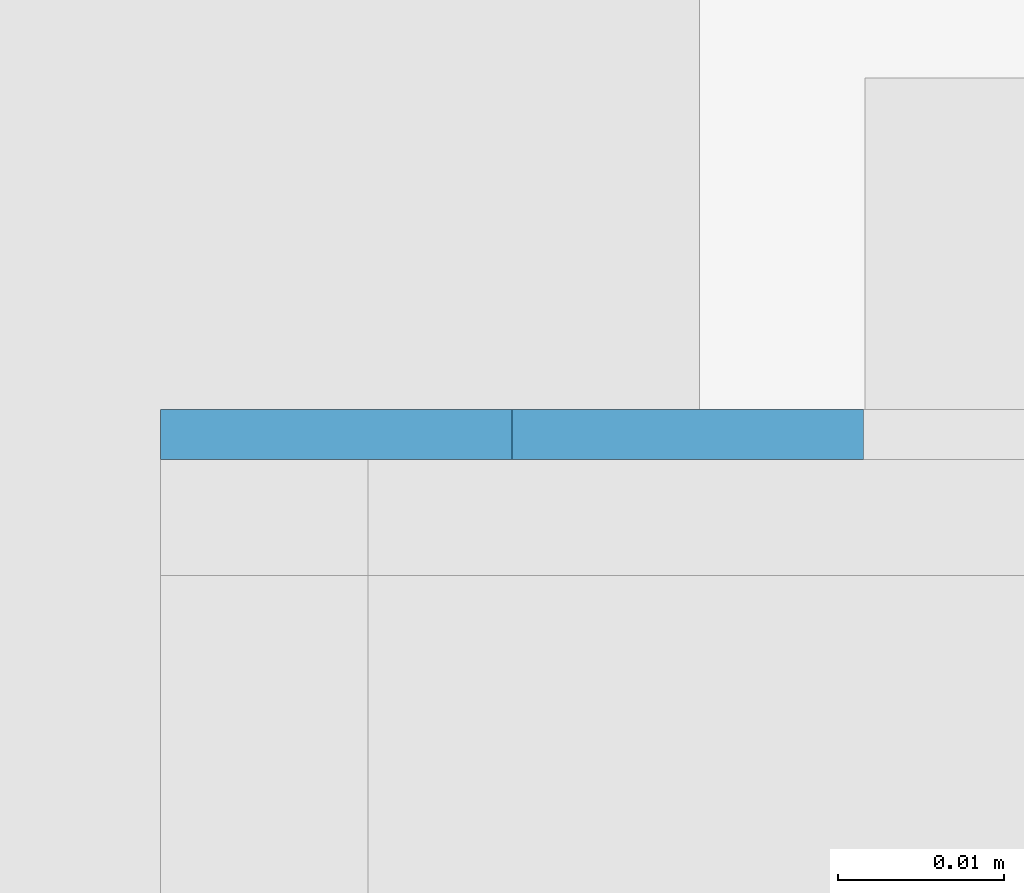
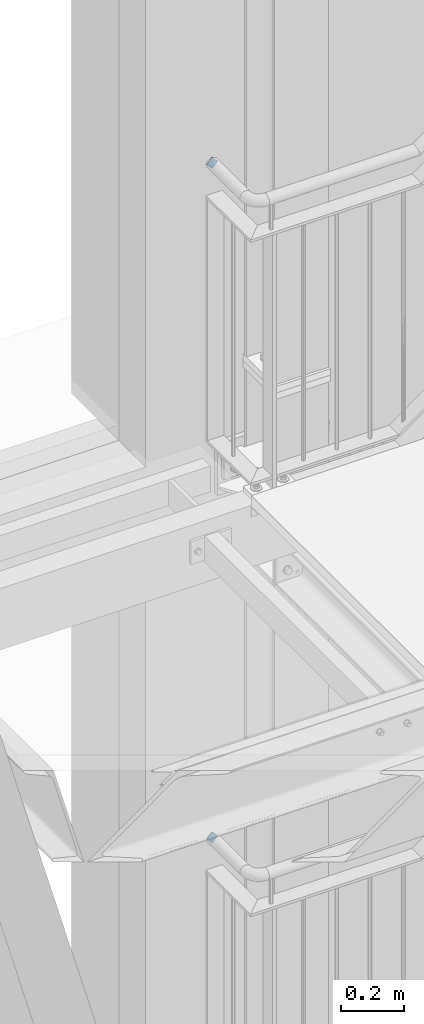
# One storey, part 224 of 821: 2 plates, 8 openings.
"""IFC2X3 building model written with IfcOpenShell, lengths in millimetres."""

from ifc_helpers import new_model, entity, si_unit, converted_unit, point, frame, frame_2d, origin, origin_with_axes, place, context, project, spatial, polyline, circle_curve, line_curve, trimmed, segment, composite_curve, outline, extrude, material, layer, layer_set, element, save


model = new_model("IFC2X3")

# Units and contexts
model_context = context("Model", 3, precision=1e-09, world=origin_with_axes())
ifc_project = project(units=[si_unit("LENGTHUNIT", "METRE", prefix="MILLI"), si_unit("AREAUNIT", "SQUARE_METRE"), si_unit("VOLUMEUNIT", "CUBIC_METRE"), converted_unit("PLANEANGLEUNIT", "DEGREE", entity("IfcPlaneAngleMeasure", 0.01745329), si_unit("PLANEANGLEUNIT", "RADIAN"), dimensions=[0, 0, 0, 0, 0, 0, 0])], contexts=[model_context])

# Site, building, storey
site_placement = place(None, origin_with_axes())
site = spatial("IfcSite", under=ifc_project, at=site_placement, Name="Cnopf'sche Kinderklinik", CompositionType="ELEMENT")
building_placement = place(site_placement, origin_with_axes())
building = spatial("IfcBuilding", under=site, at=building_placement, Name="Struktur 1", CompositionType="ELEMENT")
storey_placement = place(building_placement, origin_with_axes())
storey = spatial("IfcBuildingStorey", under=building, at=storey_placement, Name="Default Storey", CompositionType="ELEMENT", Elevation=0.0)

# Plate, openings
ifc_material = material(Name="S235JR")
ifc_layer = layer(ifc_material, 3.0)
ifc_layer_set = layer_set([ifc_layer], Name="S235JR")
plate_1_placement = place(None, frame((4614.213403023, 7608.736971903, 13719.000000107), z_axis=(0.0, 1.0, 0.0), x_axis=(0.0, 0.0, 1.0)))
plate_1 = element("IfcPlate", 1, at=plate_1_placement, inside=storey, material=ifc_layer_set, Name="-", ObjectType="-", context=model_context, shape_type="SweptSolid", body=[
    extrude(outline(polyline([(21.2, 0.0), (21.2, 42.4), (-21.2, 42.4), (-21.2, 0.0), (21.2, 0.0)])), origin_with_axes(), (0.0, 0.0, 1.0), 3.0),
])
opening_1_placement = place(plate_1_placement, frame((0.0, 0.0, -0.01), z_axis=(0.0, 0.0, 1.0), x_axis=(1.0, 0.0, 0.0)))
element("IfcOpeningElement", 2, at=opening_1_placement, cuts=plate_1, ObjectType="Opening", context=model_context, shape_type="SweptSolid", body=[
    extrude(outline(composite_curve([segment(trimmed(line_curve((21.2, 0.0), (0.0, 1.0), 21.2), [point((21.2, 0.0))], [point((21.2, 21.2))], True, "CARTESIAN"), True, "CONTINUOUS"), segment(trimmed(circle_curve(frame_2d((0.0, 21.2), x_axis=(-1.0, 0.0)), 21.2), [point((21.2, 21.2))], [point((0.0, 0.0))], False, "CARTESIAN"), True, "CONTINUOUS"), segment(trimmed(line_curve((0.0, 0.0), (1.0, 0.0), 21.2), [point((0.0, 0.0))], [point((21.2, 0.0))], True, "CARTESIAN"), True, "CONTINUOUS")], self_intersect=False)), origin(), (0.0, 0.0, 1.0), 3.02),
])
opening_2_placement = place(plate_1_placement, frame((0.0, 0.0, -0.01), z_axis=(0.0, 0.0, 1.0), x_axis=(1.0, 0.0, 0.0)))
element("IfcOpeningElement", 3, at=opening_2_placement, cuts=plate_1, ObjectType="Opening", context=model_context, shape_type="SweptSolid", body=[
    extrude(outline(composite_curve([segment(trimmed(line_curve((21.2, 42.4), (-1.0, 0.0), 21.2), [point((21.2, 42.4))], [point((0.0, 42.4))], True, "CARTESIAN"), True, "CONTINUOUS"), segment(trimmed(circle_curve(frame_2d((0.0, 21.2), x_axis=(-1.0, 0.0)), 21.2), [point((0.0, 42.4))], [point((21.2, 21.2))], False, "CARTESIAN"), True, "CONTINUOUS"), segment(trimmed(line_curve((21.2, 21.2), (0.0, 1.0), 21.2), [point((21.2, 21.2))], [point((21.2, 42.4))], True, "CARTESIAN"), True, "CONTINUOUS")], self_intersect=False)), origin(), (0.0, 0.0, 1.0), 3.02),
])
opening_3_placement = place(plate_1_placement, frame((0.0, 0.0, -0.01), z_axis=(0.0, 0.0, 1.0), x_axis=(1.0, 0.0, 0.0)))
element("IfcOpeningElement", 4, at=opening_3_placement, cuts=plate_1, ObjectType="Opening", context=model_context, shape_type="SweptSolid", body=[
    extrude(outline(composite_curve([segment(trimmed(line_curve((-21.2, 42.4), (0.0, -1.0), 21.2), [point((-21.2, 42.4))], [point((-21.2, 21.2))], True, "CARTESIAN"), True, "CONTINUOUS"), segment(trimmed(circle_curve(frame_2d((0.0, 21.2), x_axis=(-1.0, 0.0)), 21.2), [point((-21.2, 21.2))], [point((0.0, 42.4))], False, "CARTESIAN"), True, "CONTINUOUS"), segment(trimmed(line_curve((0.0, 42.4), (-1.0, 0.0), 21.2), [point((0.0, 42.4))], [point((-21.2, 42.4))], True, "CARTESIAN"), True, "CONTINUOUS")], self_intersect=False)), origin(), (0.0, 0.0, 1.0), 3.02),
])
opening_4_placement = place(plate_1_placement, frame((0.0, 0.0, -0.01), z_axis=(0.0, 0.0, 1.0), x_axis=(1.0, 0.0, 0.0)))
element("IfcOpeningElement", 5, at=opening_4_placement, cuts=plate_1, ObjectType="Opening", context=model_context, shape_type="SweptSolid", body=[
    extrude(outline(composite_curve([segment(trimmed(line_curve((-21.2, 0.0), (1.0, 0.0), 21.2), [point((-21.2, 0.0))], [point((0.0, 0.0))], True, "CARTESIAN"), True, "CONTINUOUS"), segment(trimmed(circle_curve(frame_2d((0.0, 21.2), x_axis=(-1.0, 0.0)), 21.2), [point((0.0, 0.0))], [point((-21.2, 21.2))], False, "CARTESIAN"), True, "CONTINUOUS"), segment(trimmed(line_curve((-21.2, 21.2), (0.0, -1.0), 21.2), [point((-21.2, 21.2))], [point((-21.2, 0.0))], True, "CARTESIAN"), True, "CONTINUOUS")], self_intersect=False)), origin(), (0.0, 0.0, 1.0), 3.02),
])

plate_2_placement = place(None, frame((4614.213403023, 7608.736971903, 11092.000000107), z_axis=(0.0, 1.0, 0.0), x_axis=(0.0, 0.0, 1.0)))
plate_2 = element("IfcPlate", 6, at=plate_2_placement, inside=storey, material=ifc_layer_set, Name="-", ObjectType="-", context=model_context, shape_type="SweptSolid", body=[
    extrude(outline(polyline([(21.2, 0.0), (21.2, 42.4), (-21.2, 42.4), (-21.2, 0.0), (21.2, 0.0)])), origin_with_axes(), (0.0, 0.0, 1.0), 3.0),
])
opening_5_placement = place(plate_2_placement, frame((0.0, 0.0, -0.01), z_axis=(0.0, 0.0, 1.0), x_axis=(1.0, 0.0, 0.0)))
element("IfcOpeningElement", 7, at=opening_5_placement, cuts=plate_2, ObjectType="Opening", context=model_context, shape_type="SweptSolid", body=[
    extrude(outline(composite_curve([segment(trimmed(line_curve((21.2, 0.0), (0.0, 1.0), 21.2), [point((21.2, 0.0))], [point((21.2, 21.2))], True, "CARTESIAN"), True, "CONTINUOUS"), segment(trimmed(circle_curve(frame_2d((0.0, 21.2), x_axis=(-1.0, 0.0)), 21.2), [point((21.2, 21.2))], [point((0.0, 0.0))], False, "CARTESIAN"), True, "CONTINUOUS"), segment(trimmed(line_curve((0.0, 0.0), (1.0, 0.0), 21.2), [point((0.0, 0.0))], [point((21.2, 0.0))], True, "CARTESIAN"), True, "CONTINUOUS")], self_intersect=False)), origin(), (0.0, 0.0, 1.0), 3.02),
])
opening_6_placement = place(plate_2_placement, frame((0.0, 0.0, -0.01), z_axis=(0.0, 0.0, 1.0), x_axis=(1.0, 0.0, 0.0)))
element("IfcOpeningElement", 8, at=opening_6_placement, cuts=plate_2, ObjectType="Opening", context=model_context, shape_type="SweptSolid", body=[
    extrude(outline(composite_curve([segment(trimmed(line_curve((21.2, 42.4), (-1.0, 0.0), 21.2), [point((21.2, 42.4))], [point((0.0, 42.4))], True, "CARTESIAN"), True, "CONTINUOUS"), segment(trimmed(circle_curve(frame_2d((0.0, 21.2), x_axis=(-1.0, 0.0)), 21.2), [point((0.0, 42.4))], [point((21.2, 21.2))], False, "CARTESIAN"), True, "CONTINUOUS"), segment(trimmed(line_curve((21.2, 21.2), (0.0, 1.0), 21.2), [point((21.2, 21.2))], [point((21.2, 42.4))], True, "CARTESIAN"), True, "CONTINUOUS")], self_intersect=False)), origin(), (0.0, 0.0, 1.0), 3.02),
])
opening_7_placement = place(plate_2_placement, frame((0.0, 0.0, -0.01), z_axis=(0.0, 0.0, 1.0), x_axis=(1.0, 0.0, 0.0)))
element("IfcOpeningElement", 9, at=opening_7_placement, cuts=plate_2, ObjectType="Opening", context=model_context, shape_type="SweptSolid", body=[
    extrude(outline(composite_curve([segment(trimmed(line_curve((-21.2, 42.4), (0.0, -1.0), 21.2), [point((-21.2, 42.4))], [point((-21.2, 21.2))], True, "CARTESIAN"), True, "CONTINUOUS"), segment(trimmed(circle_curve(frame_2d((0.0, 21.2), x_axis=(-1.0, 0.0)), 21.2), [point((-21.2, 21.2))], [point((0.0, 42.4))], False, "CARTESIAN"), True, "CONTINUOUS"), segment(trimmed(line_curve((0.0, 42.4), (-1.0, 0.0), 21.2), [point((0.0, 42.4))], [point((-21.2, 42.4))], True, "CARTESIAN"), True, "CONTINUOUS")], self_intersect=False)), origin(), (0.0, 0.0, 1.0), 3.02),
])
opening_8_placement = place(plate_2_placement, frame((0.0, 0.0, -0.01), z_axis=(0.0, 0.0, 1.0), x_axis=(1.0, 0.0, 0.0)))
element("IfcOpeningElement", 10, at=opening_8_placement, cuts=plate_2, ObjectType="Opening", context=model_context, shape_type="SweptSolid", body=[
    extrude(outline(composite_curve([segment(trimmed(line_curve((-21.2, 0.0), (1.0, 0.0), 21.2), [point((-21.2, 0.0))], [point((0.0, 0.0))], True, "CARTESIAN"), True, "CONTINUOUS"), segment(trimmed(circle_curve(frame_2d((0.0, 21.2), x_axis=(-1.0, 0.0)), 21.2), [point((0.0, 0.0))], [point((-21.2, 21.2))], False, "CARTESIAN"), True, "CONTINUOUS"), segment(trimmed(line_curve((-21.2, 21.2), (0.0, -1.0), 21.2), [point((-21.2, 21.2))], [point((-21.2, 0.0))], True, "CARTESIAN"), True, "CONTINUOUS")], self_intersect=False)), origin(), (0.0, 0.0, 1.0), 3.02),
])

save(model, "model.ifc")
